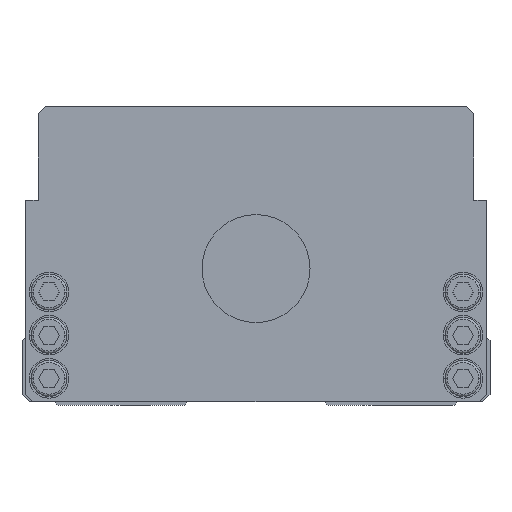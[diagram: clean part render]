
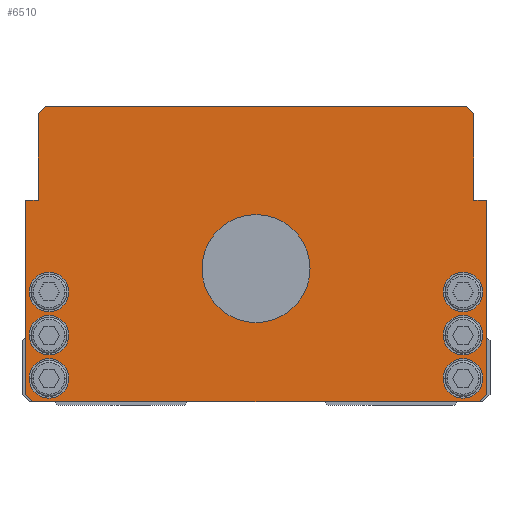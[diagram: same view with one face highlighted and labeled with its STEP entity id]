
A CAD part, front view. The second image highlights one B-rep face of the part: STEP entity #6510.
In plain terms, the highlighted planar face has unit normal (0, -1, 0).
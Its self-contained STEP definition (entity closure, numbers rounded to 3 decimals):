
#5418=VERTEX_POINT('',#16051);
#5800=VERTEX_POINT('',#16469);
#5868=EDGE_CURVE('',#13484,#8278,#16548,.T.);
#5890=EDGE_CURVE('',#10334,#14762,#16571,.T.);
#6054=VERTEX_POINT('',#16756);
#6094=VERTEX_POINT('',#16798);
#6232=VERTEX_POINT('',#16955);
#6462=VERTEX_POINT('',#17207);
#6510=ADVANCED_FACE('',(#17262,#17263,#17264,#17265,#17266,#17267,#17268,#17269),#17270,.T.);
#6652=VERTEX_POINT('',#17429);
#6812=EDGE_CURVE('',#7408,#13484,#17609,.T.);
#7272=EDGE_CURVE('',#6462,#6232,#18124,.T.);
#7408=VERTEX_POINT('',#18280);
#7490=EDGE_CURVE('',#9578,#12028,#18379,.T.);
#8278=VERTEX_POINT('',#19288);
#8690=VERTEX_POINT('',#19751);
#8768=VERTEX_POINT('',#19836);
#9032=EDGE_CURVE('',#6094,#12276,#20131,.T.);
#9092=EDGE_CURVE('',#13486,#14380,#20196,.T.);
#9114=EDGE_CURVE('',#12412,#8690,#20218,.T.);
#9518=VERTEX_POINT('',#20666);
#9578=VERTEX_POINT('',#20733);
#9818=EDGE_CURVE('',#12028,#9578,#20998,.T.);
#10334=VERTEX_POINT('',#21574);
#10470=EDGE_CURVE('',#6232,#6462,#21721,.T.);
#10650=EDGE_CURVE('',#5800,#6652,#21924,.T.);
#10760=EDGE_CURVE('',#14748,#8768,#22046,.T.);
#10864=EDGE_CURVE('',#14380,#7408,#22170,.T.);
#10894=EDGE_CURVE('',#14794,#11714,#22202,.T.);
#10954=VERTEX_POINT('',#22274);
#10958=EDGE_CURVE('',#12276,#6094,#22278,.T.);
#11492=EDGE_CURVE('',#8278,#12796,#22856,.T.);
#11714=VERTEX_POINT('',#23099);
#12028=VERTEX_POINT('',#23447);
#12276=VERTEX_POINT('',#23714);
#12290=EDGE_CURVE('',#11714,#14794,#23729,.T.);
#12362=EDGE_CURVE('',#6054,#10954,#23810,.T.);
#12412=VERTEX_POINT('',#23864);
#12572=EDGE_CURVE('',#6652,#12412,#24044,.T.);
#12796=VERTEX_POINT('',#24296);
#12888=EDGE_CURVE('',#10954,#6054,#24399,.T.);
#12978=EDGE_CURVE('',#5418,#9518,#24504,.T.);
#13470=EDGE_CURVE('',#8690,#10334,#25045,.T.);
#13484=VERTEX_POINT('',#25059);
#13486=VERTEX_POINT('',#25061);
#13876=EDGE_CURVE('',#9518,#5418,#25498,.T.);
#13978=EDGE_CURVE('',#8768,#14748,#25610,.T.);
#14380=VERTEX_POINT('',#26062);
#14748=VERTEX_POINT('',#26475);
#14762=VERTEX_POINT('',#26489);
#14794=VERTEX_POINT('',#26524);
#15158=EDGE_CURVE('',#14762,#13486,#26917,.T.);
#15500=EDGE_CURVE('',#12796,#5800,#27289,.T.);
#16051=CARTESIAN_POINT('',(63.0,0.0,19.5));
#16469=CARTESIAN_POINT('',(-60.5,0.0,81.0));
#16548=LINE('',#28616,#28617);
#16571=LINE('',#28649,#28650);
#16756=CARTESIAN_POINT('',(-15.0,0.0,38.0));
#16798=CARTESIAN_POINT('',(52.0,0.0,31.5));
#16955=CARTESIAN_POINT('',(-63.0,0.0,19.5));
#17207=CARTESIAN_POINT('',(-52.0,0.0,19.5));
#17262=FACE_BOUND('',#29589,.T.);
#17263=FACE_BOUND('',#29590,.T.);
#17264=FACE_BOUND('',#29591,.T.);
#17265=FACE_BOUND('',#29592,.T.);
#17266=FACE_BOUND('',#29593,.T.);
#17267=FACE_BOUND('',#29594,.T.);
#17268=FACE_BOUND('',#29595,.T.);
#17269=FACE_OUTER_BOUND('',#29596,.T.);
#17270=PLANE('',#29597);
#17429=CARTESIAN_POINT('',(-58.5,0.0,83.0));
#17609=LINE('',#30033,#30034);
#18124=CIRCLE('',#30747,5.5);
#18280=CARTESIAN_POINT('',(-62.0,0.0,1.0));
#18379=CIRCLE('',#31083,5.5);
#19288=CARTESIAN_POINT('',(-64.0,0.0,57.0));
#19751=CARTESIAN_POINT('',(60.5,0.0,81.0));
#19836=CARTESIAN_POINT('',(-63.0,0.0,7.5));
#20131=CIRCLE('',#33464,5.5);
#20196=LINE('',#33553,#33554);
#20218=LINE('',#33586,#33587);
#20666=CARTESIAN_POINT('',(52.0,0.0,19.5));
#20733=CARTESIAN_POINT('',(63.0,0.0,7.5));
#20998=CIRCLE('',#34636,5.5);
#21574=CARTESIAN_POINT('',(60.5,0.0,57.0));
#21721=CIRCLE('',#35665,5.5);
#21924=LINE('',#35951,#35952);
#22046=CIRCLE('',#36114,5.5);
#22170=LINE('',#36266,#36267);
#22202=CIRCLE('',#36310,5.5);
#22274=CARTESIAN_POINT('',(15.0,0.0,38.0));
#22278=CIRCLE('',#36411,5.5);
#22856=LINE('',#37212,#37213);
#23099=CARTESIAN_POINT('',(-52.0,0.0,31.5));
#23447=CARTESIAN_POINT('',(52.0,0.0,7.5));
#23714=CARTESIAN_POINT('',(63.0,0.0,31.5));
#23729=CIRCLE('',#38448,5.5);
#23810=CIRCLE('',#38553,15.0);
#23864=CARTESIAN_POINT('',(58.5,0.0,83.0));
#24044=LINE('',#38882,#38883);
#24296=CARTESIAN_POINT('',(-60.5,0.0,57.0));
#24399=CIRCLE('',#39359,15.0);
#24504=CIRCLE('',#39505,5.5);
#25045=LINE('',#40241,#40242);
#25059=CARTESIAN_POINT('',(-64.0,0.0,3.0));
#25061=CARTESIAN_POINT('',(64.0,0.0,3.0));
#25498=CIRCLE('',#40899,5.5);
#25610=CIRCLE('',#41050,5.5);
#26062=CARTESIAN_POINT('',(62.0,0.0,1.0));
#26475=CARTESIAN_POINT('',(-52.0,0.0,7.5));
#26489=CARTESIAN_POINT('',(64.0,0.0,57.0));
#26524=CARTESIAN_POINT('',(-63.0,0.0,31.5));
#26917=LINE('',#42890,#42891);
#27289=LINE('',#43419,#43420);
#28616=CARTESIAN_POINT('',(-64.0,0.0,57.0));
#28617=VECTOR('',#44761,1.0);
#28649=CARTESIAN_POINT('',(64.0,0.0,57.0));
#28650=VECTOR('',#44789,1.0);
#29589=EDGE_LOOP('',(#45633,#45634));
#29590=EDGE_LOOP('',(#45635,#45636));
#29591=EDGE_LOOP('',(#45637,#45638));
#29592=EDGE_LOOP('',(#45639,#45640));
#29593=EDGE_LOOP('',(#45641,#45642));
#29594=EDGE_LOOP('',(#45643,#45644));
#29595=EDGE_LOOP('',(#45645,#45646));
#29596=EDGE_LOOP('',(#45647,#45648,#45649,#45650,#45651,#45652,#45653,#45654,#45655,#45656,#45657,#45658));
#29597=AXIS2_PLACEMENT_3D('',#45659,#45660,#45661);
#30033=CARTESIAN_POINT('',(-64.0,0.0,3.0));
#30034=VECTOR('',#46054,1.);
#30747=AXIS2_PLACEMENT_3D('',#46634,#46635,#46636);
#31083=AXIS2_PLACEMENT_3D('',#47012,#47013,#47014);
#33464=AXIS2_PLACEMENT_3D('',#49122,#49123,#49124);
#33553=CARTESIAN_POINT('',(62.0,0.0,1.0));
#33554=VECTOR('',#49192,1.);
#33586=CARTESIAN_POINT('',(60.5,0.0,81.0));
#33587=VECTOR('',#49200,1.);
#34636=AXIS2_PLACEMENT_3D('',#50062,#50063,#50064);
#35665=AXIS2_PLACEMENT_3D('',#50907,#50908,#50909);
#35951=CARTESIAN_POINT('',(-58.5,0.0,83.0));
#35952=VECTOR('',#51100,1.);
#36114=AXIS2_PLACEMENT_3D('',#51227,#51228,#51229);
#36266=CARTESIAN_POINT('',(-62.0,0.0,1.0));
#36267=VECTOR('',#51410,1.0);
#36310=AXIS2_PLACEMENT_3D('',#51438,#51439,#51440);
#36411=AXIS2_PLACEMENT_3D('',#51540,#51541,#51542);
#37212=CARTESIAN_POINT('',(-60.5,0.0,57.0));
#37213=VECTOR('',#52212,1.0);
#38448=AXIS2_PLACEMENT_3D('',#53147,#53148,#53149);
#38553=AXIS2_PLACEMENT_3D('',#53248,#53249,#53250);
#38882=CARTESIAN_POINT('',(58.5,0.0,83.0));
#38883=VECTOR('',#53545,1.0);
#39359=AXIS2_PLACEMENT_3D('',#53954,#53955,#53956);
#39505=AXIS2_PLACEMENT_3D('',#54085,#54086,#54087);
#40241=CARTESIAN_POINT('',(60.5,0.0,57.0));
#40242=VECTOR('',#54667,1.0);
#40899=AXIS2_PLACEMENT_3D('',#55158,#55159,#55160);
#41050=AXIS2_PLACEMENT_3D('',#55267,#55268,#55269);
#42890=CARTESIAN_POINT('',(64.0,0.0,3.0));
#42891=VECTOR('',#56775,1.0);
#43419=CARTESIAN_POINT('',(-60.5,0.0,81.0));
#43420=VECTOR('',#57162,1.0);
#44761=DIRECTION('',(0.0,0.0,1.0));
#44789=DIRECTION('',(1.0,0.0,0.0));
#45633=ORIENTED_EDGE('',*,*,#12888,.T.);
#45634=ORIENTED_EDGE('',*,*,#12362,.T.);
#45635=ORIENTED_EDGE('',*,*,#10958,.T.);
#45636=ORIENTED_EDGE('',*,*,#9032,.T.);
#45637=ORIENTED_EDGE('',*,*,#12978,.T.);
#45638=ORIENTED_EDGE('',*,*,#13876,.T.);
#45639=ORIENTED_EDGE('',*,*,#7490,.T.);
#45640=ORIENTED_EDGE('',*,*,#9818,.T.);
#45641=ORIENTED_EDGE('',*,*,#12290,.T.);
#45642=ORIENTED_EDGE('',*,*,#10894,.T.);
#45643=ORIENTED_EDGE('',*,*,#7272,.T.);
#45644=ORIENTED_EDGE('',*,*,#10470,.T.);
#45645=ORIENTED_EDGE('',*,*,#10760,.T.);
#45646=ORIENTED_EDGE('',*,*,#13978,.T.);
#45647=ORIENTED_EDGE('',*,*,#6812,.F.);
#45648=ORIENTED_EDGE('',*,*,#10864,.F.);
#45649=ORIENTED_EDGE('',*,*,#9092,.F.);
#45650=ORIENTED_EDGE('',*,*,#15158,.F.);
#45651=ORIENTED_EDGE('',*,*,#5890,.F.);
#45652=ORIENTED_EDGE('',*,*,#13470,.F.);
#45653=ORIENTED_EDGE('',*,*,#9114,.F.);
#45654=ORIENTED_EDGE('',*,*,#12572,.F.);
#45655=ORIENTED_EDGE('',*,*,#10650,.F.);
#45656=ORIENTED_EDGE('',*,*,#15500,.F.);
#45657=ORIENTED_EDGE('',*,*,#11492,.F.);
#45658=ORIENTED_EDGE('',*,*,#5868,.F.);
#45659=CARTESIAN_POINT('',(0.,0.0,41.562));
#45660=DIRECTION('',(0.0,-1.0,0.0));
#45661=DIRECTION('',(1.0,0.0,0.0));
#46054=DIRECTION('',(-0.707,0.0,0.707));
#46634=CARTESIAN_POINT('',(-57.5,0.0,19.5));
#46635=DIRECTION('',(-0.0,1.0,0.0));
#46636=DIRECTION('',(1.0,0.0,0.0));
#47012=CARTESIAN_POINT('',(57.5,0.0,7.5));
#47013=DIRECTION('',(-0.0,1.0,0.0));
#47014=DIRECTION('',(1.0,0.0,0.0));
#49122=CARTESIAN_POINT('',(57.5,0.0,31.5));
#49123=DIRECTION('',(-0.0,1.0,0.0));
#49124=DIRECTION('',(1.0,0.0,0.0));
#49192=DIRECTION('',(-0.707,0.0,-0.707));
#49200=DIRECTION('',(0.707,0.0,-0.707));
#50062=CARTESIAN_POINT('',(57.5,0.0,7.5));
#50063=DIRECTION('',(-0.0,1.0,0.0));
#50064=DIRECTION('',(1.0,0.0,0.0));
#50907=CARTESIAN_POINT('',(-57.5,0.0,19.5));
#50908=DIRECTION('',(-0.0,1.0,0.0));
#50909=DIRECTION('',(1.0,0.0,0.0));
#51100=DIRECTION('',(0.707,0.0,0.707));
#51227=CARTESIAN_POINT('',(-57.5,0.0,7.5));
#51228=DIRECTION('',(-0.0,1.0,0.0));
#51229=DIRECTION('',(1.0,0.0,0.0));
#51410=DIRECTION('',(-1.0,0.0,-0.0));
#51438=CARTESIAN_POINT('',(-57.5,0.0,31.5));
#51439=DIRECTION('',(-0.0,1.0,0.0));
#51440=DIRECTION('',(1.0,0.0,0.0));
#51540=CARTESIAN_POINT('',(57.5,0.0,31.5));
#51541=DIRECTION('',(-0.0,1.0,0.0));
#51542=DIRECTION('',(1.0,0.0,0.0));
#52212=DIRECTION('',(1.0,0.0,0.0));
#53147=CARTESIAN_POINT('',(-57.5,0.0,31.5));
#53148=DIRECTION('',(-0.0,1.0,0.0));
#53149=DIRECTION('',(1.0,0.0,0.0));
#53248=CARTESIAN_POINT('',(0.0,0.0,38.0));
#53249=DIRECTION('',(-0.0,1.0,0.0));
#53250=DIRECTION('',(1.0,0.0,0.0));
#53545=DIRECTION('',(1.0,0.0,0.0));
#53954=CARTESIAN_POINT('',(0.0,0.0,38.0));
#53955=DIRECTION('',(-0.0,1.0,0.0));
#53956=DIRECTION('',(1.0,0.0,0.0));
#54085=CARTESIAN_POINT('',(57.5,0.0,19.5));
#54086=DIRECTION('',(-0.0,1.0,0.0));
#54087=DIRECTION('',(1.0,0.0,0.0));
#54667=DIRECTION('',(-0.0,0.0,-1.0));
#55158=CARTESIAN_POINT('',(57.5,0.0,19.5));
#55159=DIRECTION('',(-0.0,1.0,0.0));
#55160=DIRECTION('',(1.0,0.0,0.0));
#55267=CARTESIAN_POINT('',(-57.5,0.0,7.5));
#55268=DIRECTION('',(-0.0,1.0,0.0));
#55269=DIRECTION('',(1.0,0.0,0.0));
#56775=DIRECTION('',(-0.0,0.0,-1.0));
#57162=DIRECTION('',(0.0,0.0,1.0));
